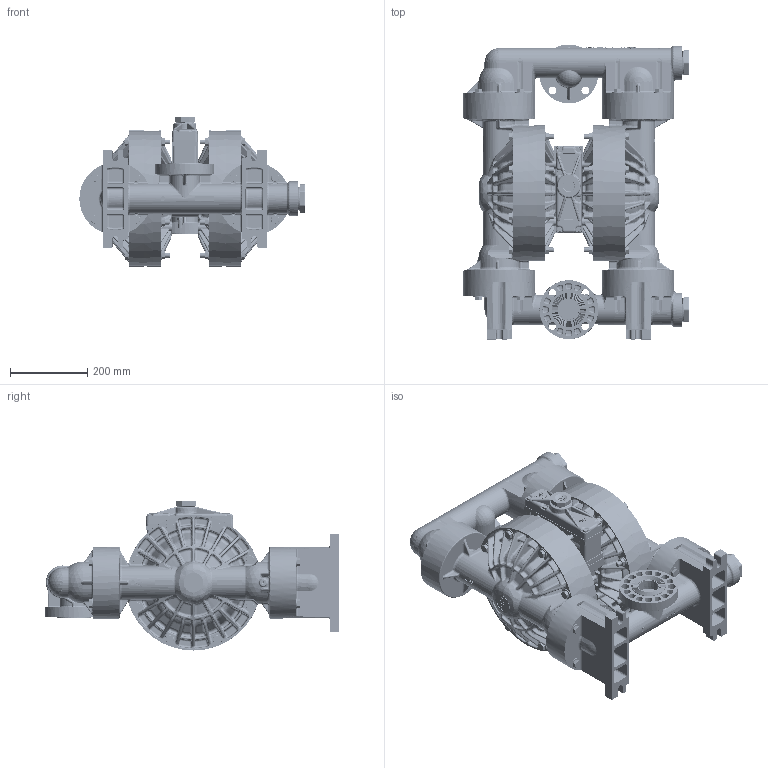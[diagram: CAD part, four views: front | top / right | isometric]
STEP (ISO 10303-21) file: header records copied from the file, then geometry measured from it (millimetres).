
FILE_DESCRIPTION (( 'STEP AP203' ), '1' );
FILE_NAME ('PS800_ADV_CP_POLY.STEP', '2022-07-05T08:51:21', ( '' ), ( '' ), 'SwSTEP 2.0', 'SolidWorks 2019', '' );
FILE_SCHEMA (( 'CONFIG_CONTROL_DESIGN' ));
Products named in the file (1): PS800_ADV_CP_POLY
Bounding box: 583.57 x 763.96 x 387.42 mm (x, y, z)
Volume: 43006381 mm3; surface area: 2212133.3 mm2
Topology: 1 solids, 1 shells, 17298 faces, 43664 edges, 26736 vertices
Faces by surface type: plane 7272, bspline 5400, cone 1390, cylinder 1344, torus 1185, sphere 707
Entity records: 912090 total; most frequent: CARTESIAN_POINT 539676, ORIENTED_EDGE 86792, DIRECTION 64735, EDGE_CURVE 43396, VERTEX_POINT 26569, AXIS2_PLACEMENT_3D 22370, LINE 19995, VECTOR 19995
